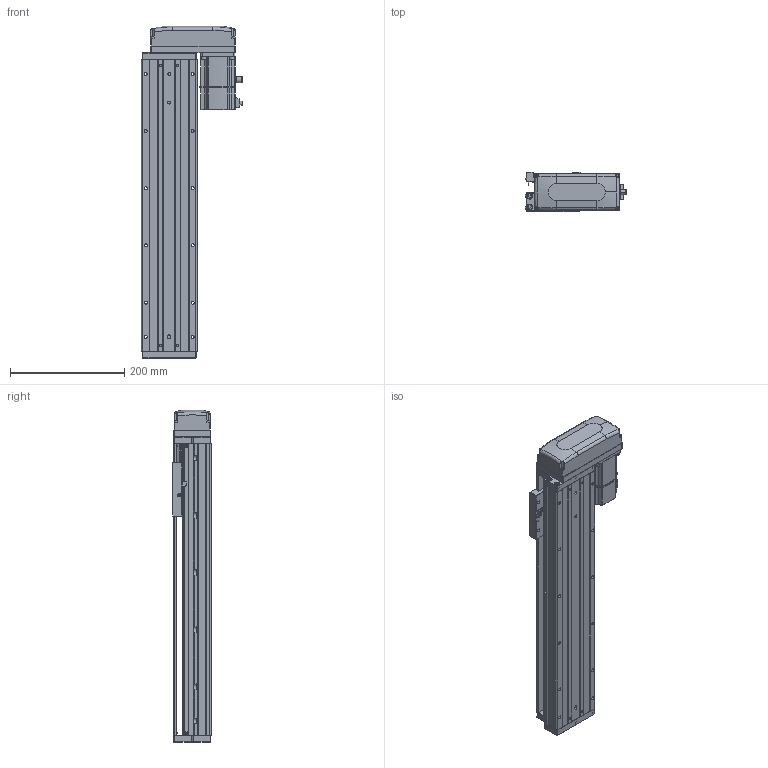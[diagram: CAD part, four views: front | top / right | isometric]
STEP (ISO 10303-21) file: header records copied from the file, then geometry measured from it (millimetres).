
FILE_DESCRIPTION (( 'STEP AP203' ), '1' );
FILE_NAME ('KTHA100-350-BL-M20-C4L.step', '2022-04-26T01:48:27', ( '微软用户' ), ( '微软中国' ), 'SwSTEP 2.0', 'SolidWorks 2020', '' );
FILE_SCHEMA (( 'CONFIG_CONTROL_DESIGN' ));
Length unit declared in the file: millimetre
Products named in the file (17): KTHA100-002; GBT77-2000 M3×3; CTHA86-033; KTHA100-004; GBT 70.1-M3℅6; KTHA100-350-BL-M20-C4L; KTHA100-005; GBT70.1 M5℅16; GB¨uT 70.2-M3¡Á5_M3¡Á6; CTHA60-016; EE_SX911P_R; GBT 70.3-M3℅6; CTHA60-017; _X2_4E0983F1_X0_200W_1; KTHA100-001_510; CTHA60-021; CTHA86-015-1_CTHA86-015-2
Assembly tree (57 placements, depth 2):
  KTHA100-350-BL-M20-C4L
    KTHA100-001_510
    KTHA100-002
    KTHA100-004
    KTHA100-005
    GB¨uT 70.2-M3¡Á5_M3¡Á6  x6
    EE_SX911P_R  x3
    CTHA60-017  x3
    CTHA60-021  x2
    GBT77-2000 M3×3  x6
    GBT 70.1-M3℅6  x10
    GBT70.1 M5℅16  x14
    CTHA60-016  x2
    GBT 70.3-M3℅6  x4
    _X2_4E0983F1_X0_200W_1
    CTHA86-015-1_CTHA86-015-2
    CTHA86-033
Bounding box: 177.7 x 68 x 581 mm (x, y, z)
Volume: 2802386.6 mm3; surface area: 464049.9 mm2
Topology: 60 solids, 60 shells, 2397 faces, 5721 edges, 3544 vertices
Faces by surface type: plane 1220, cylinder 665, cone 305, torus 116, bspline 75, sphere 16
Entity records: 40656 total; most frequent: CARTESIAN_POINT 8224, DIRECTION 6272, ORIENTED_EDGE 6054, EDGE_CURVE 3027, AXIS2_PLACEMENT_3D 2200, VERTEX_POINT 1904, VECTOR 1872, LINE 1872
